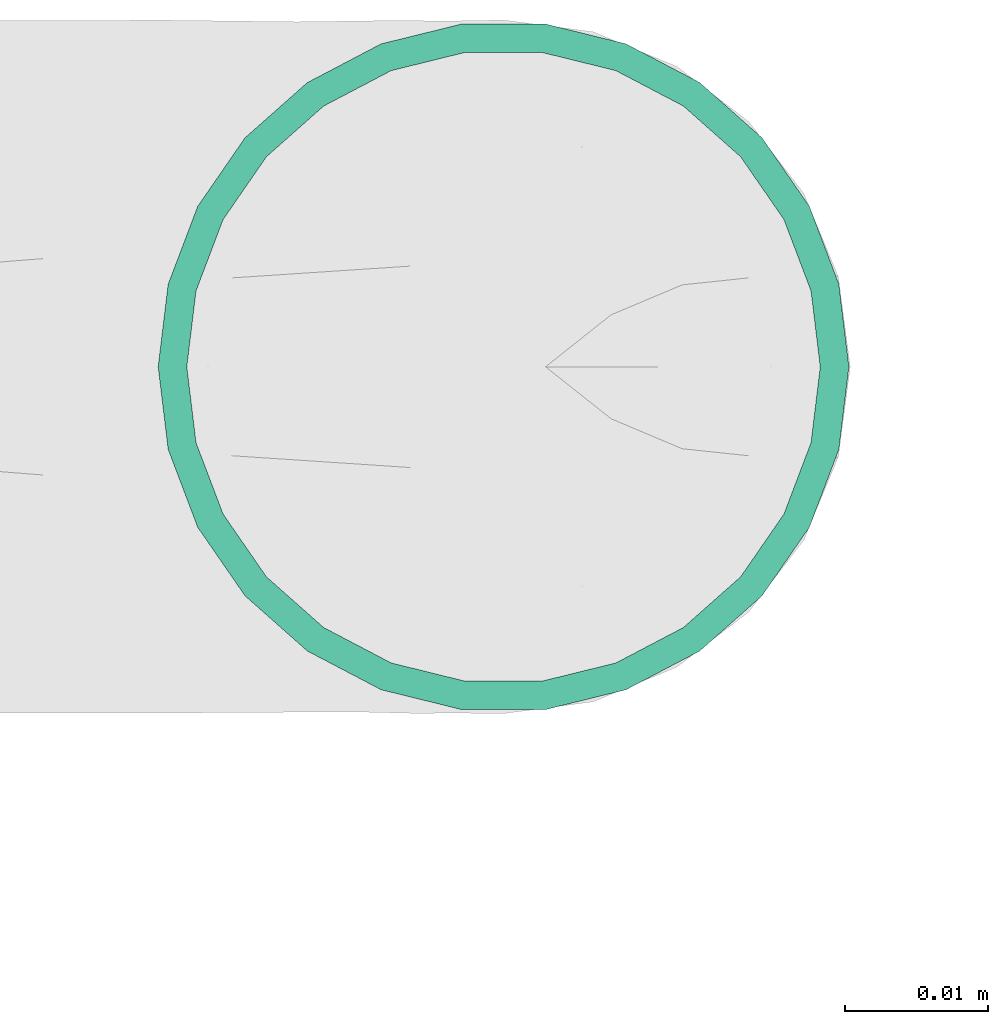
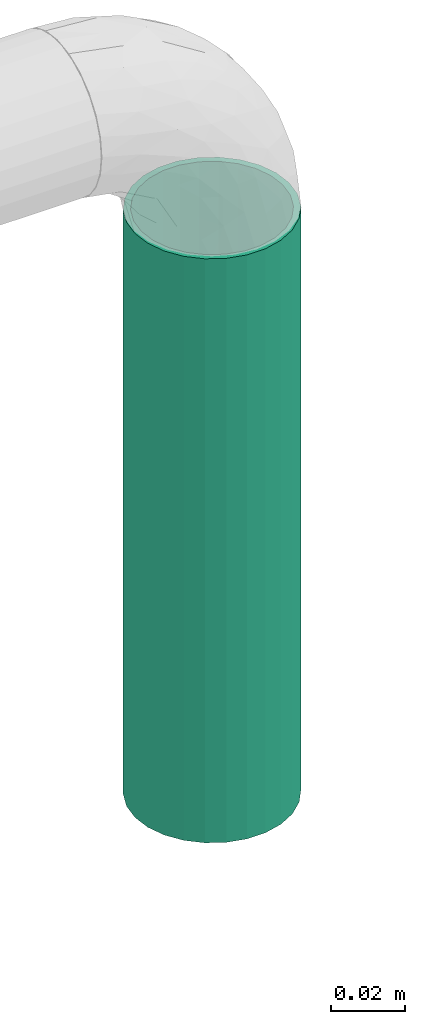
# One storey, part 2 of 14: 1 flow segment.
"""IFC2X3 building model written with IfcOpenShell, lengths in millimetres."""

from ifc_helpers import new_model, entity, si_unit, converted_unit, derived_unit, direction, frame, origin_with_axes, origin_2d_with_axis, place, context, subcontext, project, spatial, hollow_circle, extrude, source, transform, mapped, type_object, element, save


model = new_model("IFC2X3")

# Units and contexts
model_context = context("Model", 3, precision=0.01, world=frame((0.0, 4.29681676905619e-09, 0.0)), true_north=direction((4.01073788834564e-13, 1.0)))
plan_context = context("Plan", 3, precision=0.01, world=frame((0.0, 4.29681676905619e-09, 0.0)), true_north=direction((4.01073788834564e-13, 1.0)))
body_context = subcontext(model_context, "Body", "Model", "MODEL_VIEW")
ifc_project = project(units=[converted_unit("PLANEANGLEUNIT", "DEGREE", entity("IfcPositiveLengthMeasure", 0.0174532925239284), si_unit("PLANEANGLEUNIT", "RADIAN"), dimensions=[0, 0, 0, 0, 0, 0, 0]), si_unit("AREAUNIT", "SQUARE_METRE"), si_unit("LENGTHUNIT", "METRE", prefix="MILLI"), si_unit("MASSUNIT", "GRAM", prefix="KILO"), si_unit("POWERUNIT", "WATT"), si_unit("PRESSUREUNIT", "PASCAL", prefix="KILO"), si_unit("FORCEUNIT", "NEWTON", prefix="KILO"), si_unit("ELECTRICVOLTAGEUNIT", "VOLT"), si_unit("ELECTRICCURRENTUNIT", "AMPERE"), si_unit("THERMODYNAMICTEMPERATUREUNIT", "DEGREE_CELSIUS"), si_unit("TIMEUNIT", "SECOND"), si_unit("VOLUMEUNIT", "CUBIC_METRE"), derived_unit("LINEARVELOCITYUNIT", [(si_unit("LENGTHUNIT", "METRE"), 1), (si_unit("TIMEUNIT", "SECOND"), -1)]), derived_unit("VOLUMETRICFLOWRATEUNIT", [(si_unit("VOLUMEUNIT", "CUBIC_METRE"), 1), (si_unit("TIMEUNIT", "SECOND"), -1)]), derived_unit("THERMALTRANSMITTANCEUNIT", [(si_unit("POWERUNIT", "WATT"), 1), (si_unit("THERMODYNAMICTEMPERATUREUNIT", "KELVIN"), -1), (si_unit("AREAUNIT", "SQUARE_METRE"), -1)]), derived_unit("SOUNDPRESSUREUNIT", [(si_unit("PRESSUREUNIT", "PASCAL"), 1)])], contexts=[model_context, plan_context])

# Site, building, storey
site_placement = place(None, frame((0.0, -4.29681676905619e-09, 0.0), z_axis=(0.0, 0.0, 1.0), x_axis=(1.0, 0.0, 0.0)))
site = spatial("IfcSite", under=ifc_project, at=site_placement, CompositionType="ELEMENT")
building_placement = place(site_placement, frame((0.0, 4.29681676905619e-09, 0.0), z_axis=(0.0, 0.0, 1.0), x_axis=(1.0, 0.0, 0.0)))
building = spatial("IfcBuilding", under=site, at=building_placement, Name="mc-building", CompositionType="ELEMENT")
storey_placement = place(building_placement, frame((0.0, 0.0, 204000.0), z_axis=(0.0, 0.0, 1.0), x_axis=(1.0, 0.0, 0.0)))
storey = spatial("IfcBuildingStorey", under=building, at=storey_placement, Name="Nivå D", CompositionType="ELEMENT", Elevation=204000.0)

# Flow segment
pipe_segment_type = type_object("IfcPipeSegmentType", Name="Stålrør normaltykke", PredefinedType="RIGIDSEGMENT")
shared_shape = source(origin_with_axes(), body_context, "Body", "SweptSolid", [
    extrude(hollow_circle(Radius=24.1, WallThickness=2.0, at=origin_2d_with_axis()), frame((0.0, 0.0, 0.0), z_axis=(1.0, 0.0, 0.0), x_axis=(0.0, 1.0, 0.0)), (0.0, 0.0, 1.0), 193.2),
])
flow_segment_placement = place(storey_placement, frame((585971.2, 576802.46783, 5808.39999999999), z_axis=(0.0, -1.0, 0.0), x_axis=(0.0, 0.0, 1.0)))
element("IfcFlowSegment", 1, at=flow_segment_placement, inside=storey, type_object=pipe_segment_type, Name="Stålrør normaltykke", context=body_context, shape_type="MappedRepresentation", body=[
    mapped(shared_shape, transform((0.0, 0.0, 0.0), scale=1.0)),
])

save(model, "model.ifc")
